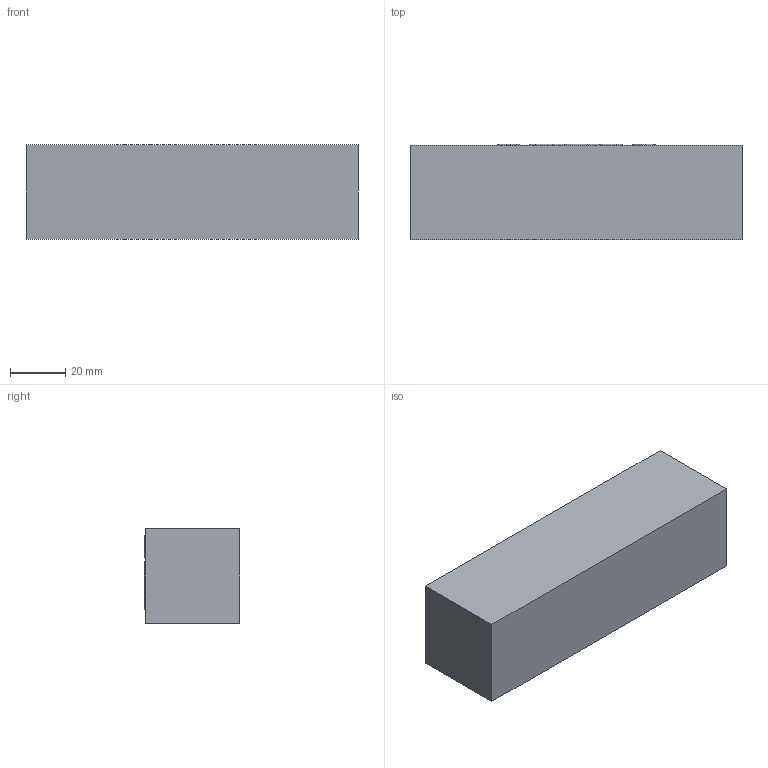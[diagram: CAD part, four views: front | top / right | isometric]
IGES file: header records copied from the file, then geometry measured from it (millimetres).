
Start section:  PTC IGES file: 563519-en-g.igs
Global section: file name: 563519-en-g.igs; native system: Creo Parametric by PTC Inc.; preprocessor: 2019030; author: qusrh3; organization: Unknown; date: 20191231.214006; units: inch
Bounding box: 120.65 x 34.65 x 34.24 mm (x, y, z)
Surface area: 19426.1 mm2 (no closed solid volume)
Topology: 0 solids, 0 shells, 24 faces, 96 edges, 96 vertices
Faces by surface type: revolution 18, bspline 6
